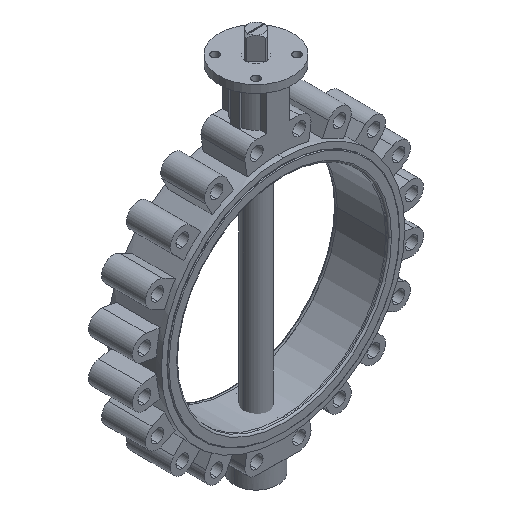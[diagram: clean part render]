
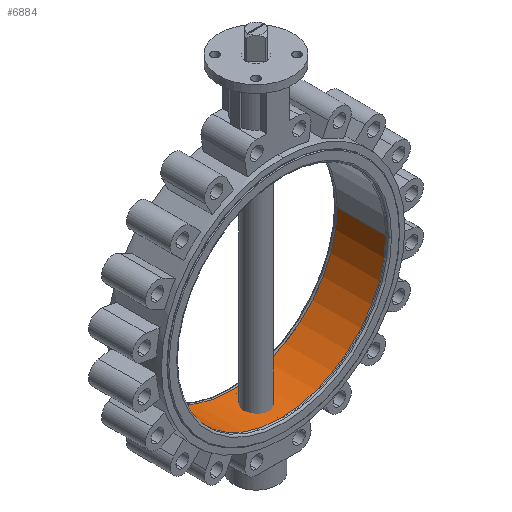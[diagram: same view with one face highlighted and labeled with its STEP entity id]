
A CAD part, isometric view. The second image highlights one B-rep face of the part: STEP entity #6884.
In plain terms, the highlighted cylindrical face has radius 300.208 mm (diameter 600.416 mm), a partial arc.
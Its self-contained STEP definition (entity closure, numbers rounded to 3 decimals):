
#157 = CARTESIAN_POINT ( 'NONE',  ( 3718.568, 1316.689, 300.208 ) ) ;
#442 = VERTEX_POINT ( 'NONE', #1152 ) ;
#483 = EDGE_CURVE ( 'NONE', #2438, #442, #1927, .T. ) ;
#946 = LINE ( 'NONE', #3073, #2387 ) ;
#1152 = CARTESIAN_POINT ( 'NONE',  ( 3718.568, 1316.689, -300.208 ) ) ;
#1281 = ORIENTED_EDGE ( 'NONE', *, *, #483, .T. ) ;
#1336 = EDGE_CURVE ( 'NONE', #5901, #4678, #7004, .T. ) ;
#1450 = DIRECTION ( 'NONE',  ( -1., 0., 0. ) ) ;
#1776 = AXIS2_PLACEMENT_3D ( 'NONE', #3845, #2620, #8761 ) ;
#1825 = DIRECTION ( 'NONE',  ( 0., 0., 1. ) ) ;
#1877 = AXIS2_PLACEMENT_3D ( 'NONE', #7512, #1450, #6282 ) ;
#1884 = EDGE_LOOP ( 'NONE', ( #7054, #7631, #2483, #1281 ) ) ;
#1927 = CIRCLE ( 'NONE', #1776, 300.208 ) ;
#2367 = CARTESIAN_POINT ( 'NONE',  ( 3690.542, 1316.689, 300.208 ) ) ;
#2387 = VECTOR ( 'NONE', #5110, 1000. ) ;
#2438 = VERTEX_POINT ( 'NONE', #157 ) ;
#2483 = ORIENTED_EDGE ( 'NONE', *, *, #7315, .T. ) ;
#2620 = DIRECTION ( 'NONE',  ( -1., 0., 0. ) ) ;
#3073 = CARTESIAN_POINT ( 'NONE',  ( 3690.542, 1316.689, -300.208 ) ) ;
#3533 = CYLINDRICAL_SURFACE ( 'NONE', #1877, 300.208 ) ;
#3837 = EDGE_CURVE ( 'NONE', #4678, #442, #946, .T. ) ;
#3845 = CARTESIAN_POINT ( 'NONE',  ( 3718.568, 1316.689, 0. ) ) ;
#4394 = CARTESIAN_POINT ( 'NONE',  ( 3856.484, 1316.689, 300.208 ) ) ;
#4678 = VERTEX_POINT ( 'NONE', #5288 ) ;
#4898 = FACE_OUTER_BOUND ( 'NONE', #1884, .T. ) ;
#5104 = DIRECTION ( 'NONE',  ( -1., 0., 0. ) ) ;
#5110 = DIRECTION ( 'NONE',  ( -1., 0., 0. ) ) ;
#5288 = CARTESIAN_POINT ( 'NONE',  ( 3856.484, 1316.689, -300.208 ) ) ;
#5901 = VERTEX_POINT ( 'NONE', #4394 ) ;
#6282 = DIRECTION ( 'NONE',  ( 0., 0., 1. ) ) ;
#6299 = AXIS2_PLACEMENT_3D ( 'NONE', #6473, #5104, #1825 ) ;
#6473 = CARTESIAN_POINT ( 'NONE',  ( 3856.484, 1316.689, 0. ) ) ;
#6823 = VECTOR ( 'NONE', #7062, 1000. ) ;
#6884 = ADVANCED_FACE ( 'NONE', ( #4898 ), #3533, .F. ) ;
#7004 = CIRCLE ( 'NONE', #6299, 300.208 ) ;
#7054 = ORIENTED_EDGE ( 'NONE', *, *, #3837, .F. ) ;
#7062 = DIRECTION ( 'NONE',  ( -1., 0., 0. ) ) ;
#7315 = EDGE_CURVE ( 'NONE', #5901, #2438, #8523, .T. ) ;
#7512 = CARTESIAN_POINT ( 'NONE',  ( 3690.542, 1316.689, 0. ) ) ;
#7631 = ORIENTED_EDGE ( 'NONE', *, *, #1336, .F. ) ;
#8523 = LINE ( 'NONE', #2367, #6823 ) ;
#8761 = DIRECTION ( 'NONE',  ( 0., 0., 1. ) ) ;
